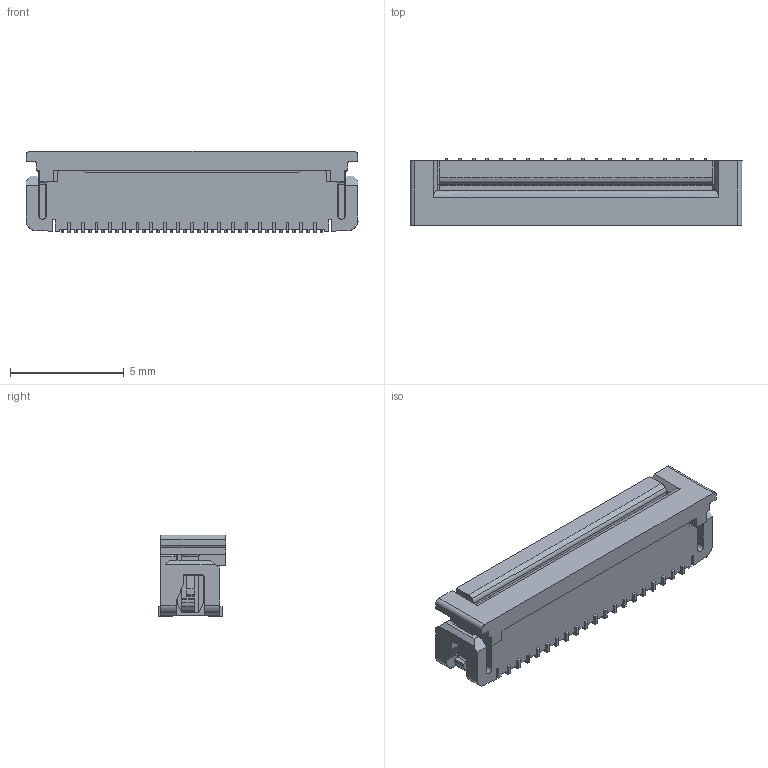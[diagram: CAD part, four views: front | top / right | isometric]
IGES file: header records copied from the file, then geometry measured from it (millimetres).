
Start section: SolidWorks IGES file using analytic representation for surfaces
Bounding box: 14.6 x 2.95 x 3.6 mm (x, y, z)
Surface area: 385.7 mm2 (no closed solid volume)
Topology: 0 solids, 0 shells, 617 faces, 4817 edges, 4815 vertices
Faces by surface type: bspline 439, revolution 178
